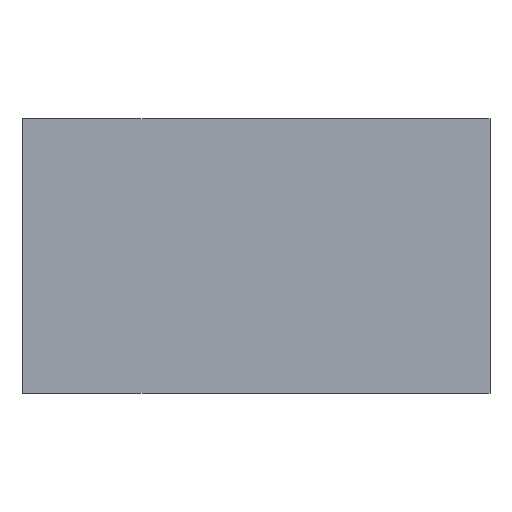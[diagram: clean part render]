
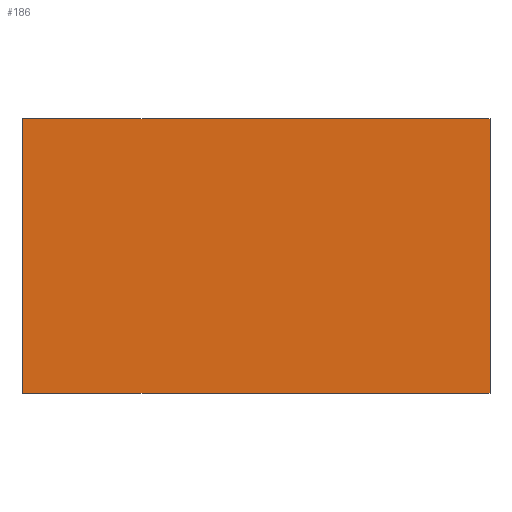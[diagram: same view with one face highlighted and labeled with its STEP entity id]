
A CAD part, front view. The second image highlights one B-rep face of the part: STEP entity #186.
In plain terms, the highlighted planar face has unit normal (0, -1, 0).
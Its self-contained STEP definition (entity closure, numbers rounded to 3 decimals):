
#1 = CARTESIAN_POINT ( 'NONE',  ( 0., 0., -10. ) ) ;
#5 = VERTEX_POINT ( 'NONE', #553 ) ;
#9 = ORIENTED_EDGE ( 'NONE', *, *, #760, .F. ) ;
#42 = LINE ( 'NONE', #1, #590 ) ;
#43 = LINE ( 'NONE', #296, #140 ) ;
#62 = LINE ( 'NONE', #662, #95 ) ;
#69 = CARTESIAN_POINT ( 'NONE',  ( 0., 0., -10. ) ) ;
#95 = VECTOR ( 'NONE', #603, 1000. ) ;
#96 = ORIENTED_EDGE ( 'NONE', *, *, #450, .F. ) ;
#129 = PLANE ( 'NONE',  #479 ) ;
#140 = VECTOR ( 'NONE', #764, 1000. ) ;
#168 = EDGE_CURVE ( 'NONE', #533, #587, #43, .T. ) ;
#186 = ADVANCED_FACE ( 'NONE', ( #532 ), #129, .F. ) ;
#193 = DIRECTION ( 'NONE',  ( 0., 0., 1. ) ) ;
#296 = CARTESIAN_POINT ( 'NONE',  ( 0., 0., 0. ) ) ;
#307 = LINE ( 'NONE', #539, #542 ) ;
#322 = ORIENTED_EDGE ( 'NONE', *, *, #549, .T. ) ;
#407 = EDGE_LOOP ( 'NONE', ( #481, #96, #9, #322 ) ) ;
#427 = DIRECTION ( 'NONE',  ( 0., 0., 1. ) ) ;
#450 = EDGE_CURVE ( 'NONE', #703, #587, #42, .T. ) ;
#479 = AXIS2_PLACEMENT_3D ( 'NONE', #69, #494, #193 ) ;
#481 = ORIENTED_EDGE ( 'NONE', *, *, #168, .T. ) ;
#489 = CARTESIAN_POINT ( 'NONE',  ( 0., 0., 0. ) ) ;
#494 = DIRECTION ( 'NONE',  ( 0., 1., 0. ) ) ;
#508 = CARTESIAN_POINT ( 'NONE',  ( 17.023, 0., 0. ) ) ;
#532 = FACE_OUTER_BOUND ( 'NONE', #407, .T. ) ;
#533 = VERTEX_POINT ( 'NONE', #508 ) ;
#539 = CARTESIAN_POINT ( 'NONE',  ( 0., 0., -10. ) ) ;
#542 = VECTOR ( 'NONE', #765, 1000. ) ;
#549 = EDGE_CURVE ( 'NONE', #5, #533, #62, .T. ) ;
#553 = CARTESIAN_POINT ( 'NONE',  ( 17.023, 0., -10. ) ) ;
#587 = VERTEX_POINT ( 'NONE', #489 ) ;
#590 = VECTOR ( 'NONE', #427, 1000. ) ;
#603 = DIRECTION ( 'NONE',  ( 0., 0., 1. ) ) ;
#643 = CARTESIAN_POINT ( 'NONE',  ( 0., 0., -10. ) ) ;
#662 = CARTESIAN_POINT ( 'NONE',  ( 17.023, 0., -10. ) ) ;
#703 = VERTEX_POINT ( 'NONE', #643 ) ;
#760 = EDGE_CURVE ( 'NONE', #5, #703, #307, .T. ) ;
#764 = DIRECTION ( 'NONE',  ( -1., 0., 0. ) ) ;
#765 = DIRECTION ( 'NONE',  ( -1., 0., 0. ) ) ;
